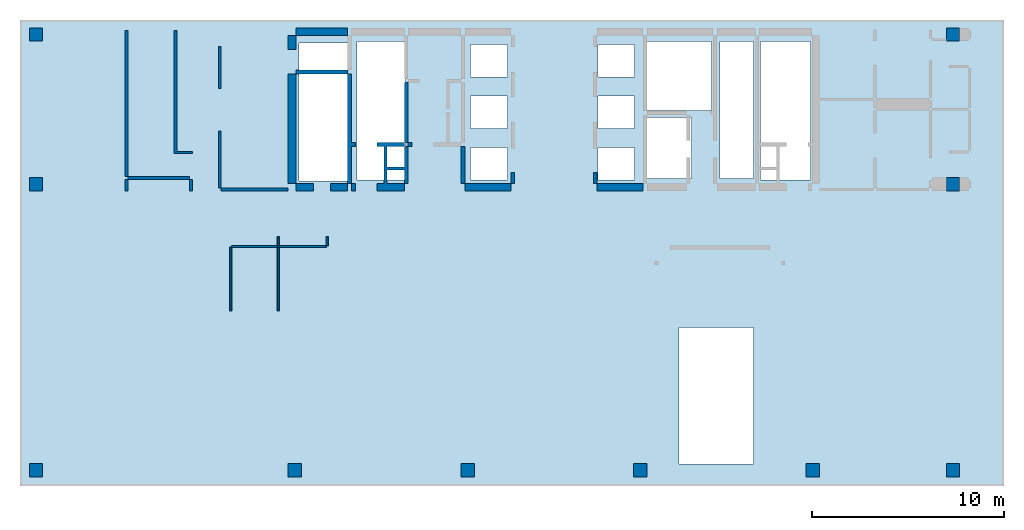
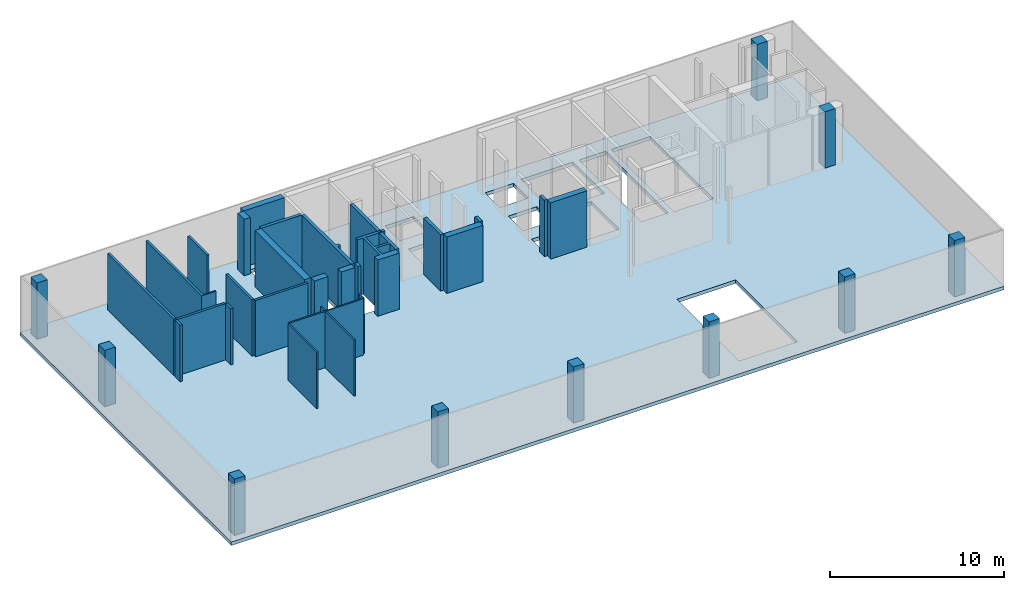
# One storey, part 1 of 4: 30 walls, 10 columns, 1 slab.
"""IFC4 building model written with IfcOpenShell, lengths in millimetres."""

import ifcopenshell
import ifcopenshell.guid

model = None  # the IFC model being written
_history = None  # IfcOwnerHistory: only IFC2X3 demands one
_inside = {}  # id of a spatial element -> (the spatial element, [elements in it])
_under = {}  # id of a project, library or spatial element -> (it, [spatial elements below it])
_declared = {}  # id of a project -> (the project, [libraries it declares])
_typed = {}  # id of a type object -> (the type object, [elements of that type])
_made_of = {}  # id of a material, layer set ... -> (it, [elements and type objects made of it])


def new_model(schema):
    """Start an empty IFC model of exactly this schema.

    Asked for "IFC4X3", IfcOpenShell would pick the latest addendum, in which some entities
    have other attributes; the version numbers below select the first issue.
    IFC2X3 requires an IfcOwnerHistory on every rooted entity: one is made here for all.
    """
    global model, _history
    if schema == "IFC4X3":
        model = ifcopenshell.file(schema_version=(4, 3, 0, 0))
    else:
        model = ifcopenshell.file(schema=schema)
    _inside.clear()
    _under.clear()
    _declared.clear()
    _typed.clear()
    _made_of.clear()
    _history = None
    if model.schema == "IFC2X3":
        org = make("IfcOrganization", Name="unknown")
        user = make(
            "IfcPersonAndOrganization",
            ThePerson=make("IfcPerson", FamilyName="unknown"),
            TheOrganization=org,
        )
        app = make(
            "IfcApplication",
            ApplicationDeveloper=org,
            Version="unknown",
            ApplicationFullName="unknown",
            ApplicationIdentifier="unknown",
        )
        _history = make(
            "IfcOwnerHistory",
            OwningUser=user,
            OwningApplication=app,
            ChangeAction="ADDED",
            CreationDate=0,
        )
    return model


def make(cls, **values):
    """One entity of the class cls with the attributes given. An attribute that is None is left unset."""
    return model.create_entity(
        cls, **{name: value for name, value in values.items() if value is not None}
    )


def rooted(cls, **values):
    """An entity with a GlobalId (a new one), such as an element, a storey or a relation."""
    return make(cls, GlobalId=ifcopenshell.guid.new(), OwnerHistory=_history, **values)


def si_unit(unit_type, name, prefix=None):
    """IfcSIUnit, for example si_unit("LENGTHUNIT", "METRE", prefix="MILLI")."""
    return make("IfcSIUnit", UnitType=unit_type, Prefix=prefix, Name=name)


def assignment(units):
    """IfcUnitAssignment: the units of a project."""
    return None if units is None else make("IfcUnitAssignment", Units=units)


def point(xyz):
    """IfcCartesianPoint."""
    return None if xyz is None else make("IfcCartesianPoint", Coordinates=xyz)


def direction(xyz):
    """IfcDirection."""
    return None if xyz is None else make("IfcDirection", DirectionRatios=xyz)


def frame(location, z_axis=None, x_axis=None):
    """IfcAxis2Placement3D, a coordinate frame: its origin and axes. An axis left out is left unset."""
    return make(
        "IfcAxis2Placement3D",
        Location=point(location),
        Axis=direction(z_axis),
        RefDirection=direction(x_axis),
    )


def origin():
    """The frame at (0, 0, 0) with its axes left unset."""
    return frame((0.0, 0.0, 0.0))


def place(relative_to, where):
    """IfcLocalPlacement: puts the frame where relative to a parent placement (None: the world)."""
    return make(
        "IfcLocalPlacement", PlacementRelTo=relative_to, RelativePlacement=where
    )


def context(
    kind, dimensions, precision=None, world=None, true_north=None, identifier=None
):
    """IfcGeometricRepresentationContext, for example the 3D "Model" context."""
    return make(
        "IfcGeometricRepresentationContext",
        ContextIdentifier=identifier,
        ContextType=kind,
        CoordinateSpaceDimension=dimensions,
        Precision=precision,
        WorldCoordinateSystem=world,
        TrueNorth=true_north,
    )


def project(units=None, contexts=None):
    """IfcProject with its units and contexts."""
    return rooted(
        "IfcProject",
        Name="project",
        RepresentationContexts=contexts,
        UnitsInContext=assignment(units),
    )


def spatial(cls, under=None, at=None, **own):
    """A site, building, storey or space (cls), placed at a placement, below another one or the project."""
    s = rooted(cls, ObjectPlacement=at, **own)
    if under is not None:
        _under.setdefault(under.id(), (under, []))[1].append(s)
    return s


def point_list(points):
    """IfcCartesianPointList2D or 3D."""
    cls = (
        "IfcCartesianPointList2D" if len(points[0]) == 2 else "IfcCartesianPointList3D"
    )
    return make(cls, CoordList=points)


def triangles(points, corners, closed=None, point_numbers=None):
    """IfcTriangulatedFaceSet: each triangle names its three corners, points numbered from 1."""
    return make(
        "IfcTriangulatedFaceSet",
        Coordinates=point_list(points),
        Closed=closed,
        CoordIndex=corners,
        PnIndex=point_numbers,
    )


def shape(context_of_items, identifier, shape_type, items):
    """IfcShapeRepresentation: the items that make up one representation, for example the "Body"."""
    return make(
        "IfcShapeRepresentation",
        ContextOfItems=context_of_items,
        RepresentationIdentifier=identifier,
        RepresentationType=shape_type,
        Items=items,
    )


def made_of(thing, what):
    """Note that an element or type object is made of a material, layer set ...; save() writes the relation."""
    if what is not None:
        _made_of.setdefault(what.id(), (what, []))[1].append(thing)
    return thing


def element(
    cls,
    number,
    at=None,
    inside=None,
    cuts=None,
    type_object=None,
    material=None,
    context=None,
    identifier="Body",
    shape_type=None,
    held_by="IfcProductDefinitionShape",
    body=None,
    shapes=None,
    **own,
):
    """One element of the class cls, such as IfcWall. Its Tag is "e" and its number.

    at: its placement. inside: the storey or other place that contains it. cuts: it is an
    opening in that element (IfcRelVoidsElement). A single representation is given by context,
    identifier, shape_type and body (its items); several are given by shapes. held_by: the class
    of the entity that holds the representations. save() writes the other relations.
    """
    e = rooted(cls, Tag="e%d" % number, ObjectPlacement=at, **own)
    if body is not None:
        shapes = [shape(context, identifier, shape_type, body)]
    if shapes is not None:
        e.Representation = make(held_by, Representations=shapes)
    if inside is not None:
        _inside.setdefault(inside.id(), (inside, []))[1].append(e)
    if cuts is not None:
        rooted(
            "IfcRelVoidsElement", RelatingBuildingElement=cuts, RelatedOpeningElement=e
        )
    if type_object is not None:
        _typed.setdefault(type_object.id(), (type_object, []))[1].append(e)
    return made_of(e, material)


def aggregate(whole, parts):
    """IfcRelAggregates: a whole, such as a stair, and the parts it consists of."""
    return rooted("IfcRelAggregates", RelatingObject=whole, RelatedObjects=parts)


def save(model, path):
    """Write the relations noted so far, then the file.

    IfcRelAggregates (storeys below a building ...), IfcRelContainedInSpatialStructure (elements
    in a storey), IfcRelDefinesByType, IfcRelAssociatesMaterial and IfcRelDeclares: one each for
    every whole, place, type object, material and project.
    """
    for whole, parts in _under.values():
        aggregate(whole, parts)
    for where, things in _inside.values():
        rooted(
            "IfcRelContainedInSpatialStructure",
            RelatedElements=things,
            RelatingStructure=where,
        )
    for kind, things in _typed.values():
        rooted("IfcRelDefinesByType", RelatedObjects=things, RelatingType=kind)
    for what, things in _made_of.values():
        rooted("IfcRelAssociatesMaterial", RelatedObjects=things, RelatingMaterial=what)
    for by, libraries in _declared.values():
        rooted("IfcRelDeclares", RelatingContext=by, RelatedDefinitions=libraries)
    model.write(path)


model = new_model("IFC4")

# Units and contexts
model_context = context("Model", 3, precision=0.001, world=origin())
ifc_project = project(units=[si_unit("LENGTHUNIT", "METRE", prefix="MILLI"), si_unit("AREAUNIT", "SQUARE_METRE"), si_unit("VOLUMEUNIT", "CUBIC_METRE")], contexts=[model_context])

# Site, building, storey
site_placement = place(None, origin())
site = spatial("IfcSite", under=ifc_project, at=site_placement, Name="Site", CompositionType="ELEMENT")
building_placement = place(site_placement, origin())
building = spatial("IfcBuilding", under=site, at=building_placement, Name="INNOCEAN", CompositionType="ELEMENT")
storey_placement = place(building_placement, frame((0.0, 0.0, 55400.0)))
storey = spatial("IfcBuildingStorey", under=building, at=storey_placement, Name="F13", CompositionType="ELEMENT", Elevation=55400.0)

# Columns
column_1_placement = place(storey_placement, origin())
element("IfcColumn", 1, at=column_1_placement, inside=storey, Name="F13_Columns_F13_001", context=model_context, shape_type="Tessellation", body=[
    triangles([(40114.8, 2023.7, 0.0), (40114.8, 2023.7, 3950.0), (40114.8, 2722.3, 0.0), (40114.8, 2722.3, 3950.0), (40813.0, 2023.7, 3950.0), (40813.0, 2023.7, 0.0), (40813.0, 2722.3, 0.0), (40813.0, 2722.3, 3950.0)], [[1, 2, 3], [3, 2, 4], [5, 6, 7], [5, 7, 8], [6, 5, 1], [1, 5, 2], [8, 7, 3], [8, 3, 4], [3, 7, 1], [1, 7, 6], [8, 4, 2], [8, 2, 5]], closed=True),
])
column_2_placement = place(storey_placement, origin())
element("IfcColumn", 2, at=column_2_placement, inside=storey, Name="F13_Columns_F13_002", context=model_context, shape_type="Tessellation", body=[
    triangles([(47413.4, 24721.0, 0.0), (47413.4, 24721.0, 3950.0), (47413.4, 25419.5, 0.0), (47413.4, 25419.5, 3950.0), (48111.6, 24721.0, 3950.0), (48111.6, 24721.0, 0.0), (48111.6, 25419.5, 0.0), (48111.6, 25419.5, 3950.0)], [[1, 2, 3], [3, 2, 4], [5, 6, 7], [5, 7, 8], [6, 5, 1], [1, 5, 2], [8, 7, 3], [8, 3, 4], [1, 3, 6], [3, 7, 6], [4, 2, 5], [8, 4, 5]], closed=True),
])
column_3_placement = place(storey_placement, origin())
element("IfcColumn", 3, at=column_3_placement, inside=storey, Name="F13_Columns_F13_003", context=model_context, shape_type="Tessellation", body=[
    triangles([(47413.4, 16922.4, 0.0), (47413.4, 16922.4, 3950.0), (47413.4, 17620.9, 0.0), (47413.4, 17620.9, 3950.0), (48111.6, 16922.4, 3950.0), (48111.6, 16922.4, 0.0), (48111.6, 17620.9, 0.0), (48111.6, 17620.9, 3950.0)], [[1, 2, 3], [3, 2, 4], [5, 6, 7], [5, 7, 8], [6, 5, 1], [1, 5, 2], [8, 7, 3], [8, 3, 4], [1, 3, 6], [3, 7, 6], [4, 2, 5], [8, 4, 5]], closed=True),
])
column_4_placement = place(storey_placement, origin())
element("IfcColumn", 4, at=column_4_placement, inside=storey, Name="F13_Columns_F13_004", context=model_context, shape_type="Tessellation", body=[
    triangles([(13129.0, 2023.7, 0.0), (13129.0, 2023.7, 3950.0), (13129.0, 2722.3, 0.0), (13129.0, 2722.3, 3950.0), (13827.2, 2023.7, 3950.0), (13827.2, 2023.7, 0.0), (13827.2, 2722.3, 0.0), (13827.2, 2722.3, 3950.0)], [[1, 2, 3], [3, 2, 4], [5, 6, 7], [5, 7, 8], [6, 5, 1], [1, 5, 2], [8, 7, 3], [8, 3, 4], [3, 7, 1], [1, 7, 6], [8, 4, 2], [8, 2, 5]], closed=True),
])
column_5_placement = place(storey_placement, origin())
element("IfcColumn", 5, at=column_5_placement, inside=storey, Name="F13_Columns_F13_005", context=model_context, shape_type="Tessellation", body=[
    triangles([(47413.4, 2023.7, 0.0), (47413.4, 2023.7, 3950.0), (47413.4, 2722.3, 0.0), (47413.4, 2722.3, 3950.0), (48111.6, 2023.7, 3950.0), (48111.6, 2023.7, 0.0), (48111.6, 2722.3, 0.0), (48111.6, 2722.3, 3950.0)], [[1, 2, 3], [3, 2, 4], [5, 6, 7], [5, 7, 8], [6, 5, 1], [1, 5, 2], [8, 7, 3], [8, 3, 4], [3, 7, 1], [1, 7, 6], [8, 4, 2], [8, 2, 5]], closed=True),
])
column_6_placement = place(storey_placement, origin())
element("IfcColumn", 6, at=column_6_placement, inside=storey, Name="F13_Columns_F13_006", context=model_context, shape_type="Tessellation", body=[
    triangles([(-363.9, 2023.7, 0.0), (-363.9, 2023.7, 3950.0), (-363.9, 2722.3, 0.0), (-363.9, 2722.3, 3950.0), (334.3, 2023.7, 3950.0), (334.3, 2023.7, 0.0), (334.3, 2722.3, 0.0), (334.3, 2722.3, 3950.0)], [[1, 2, 3], [3, 2, 4], [5, 6, 7], [5, 7, 8], [6, 5, 1], [1, 5, 2], [8, 7, 3], [8, 3, 4], [3, 7, 1], [1, 7, 6], [8, 4, 2], [8, 2, 5]], closed=True),
])
column_7_placement = place(storey_placement, origin())
element("IfcColumn", 7, at=column_7_placement, inside=storey, Name="F13_Columns_F13_007", context=model_context, shape_type="Tessellation", body=[
    triangles([(-363.9, 24721.0, 0.0), (-363.9, 24721.0, 3950.0), (-363.9, 25419.5, 0.0), (-363.9, 25419.5, 3950.0), (334.3, 24721.0, 3950.0), (334.3, 24721.0, 0.0), (334.3, 25419.5, 0.0), (334.3, 25419.5, 3950.0)], [[1, 2, 3], [3, 2, 4], [5, 6, 7], [5, 7, 8], [6, 5, 1], [1, 5, 2], [8, 7, 3], [8, 3, 4], [3, 7, 1], [1, 7, 6], [8, 4, 2], [8, 2, 5]], closed=True),
])
column_8_placement = place(storey_placement, origin())
element("IfcColumn", 8, at=column_8_placement, inside=storey, Name="F13_Columns_F13_008", context=model_context, shape_type="Tessellation", body=[
    triangles([(31128.0, 2023.7, 0.0), (31128.0, 2023.7, 3950.0), (31128.0, 2722.3, 0.0), (31128.0, 2722.3, 3950.0), (31826.2, 2023.7, 3950.0), (31826.2, 2023.7, 0.0), (31826.2, 2722.3, 0.0), (31826.2, 2722.3, 3950.0)], [[1, 2, 3], [3, 2, 4], [5, 6, 7], [5, 7, 8], [6, 5, 1], [1, 5, 2], [8, 7, 3], [8, 3, 4], [3, 7, 1], [1, 7, 6], [8, 4, 2], [8, 2, 5]], closed=True),
])
column_9_placement = place(storey_placement, origin())
element("IfcColumn", 9, at=column_9_placement, inside=storey, Name="F13_Columns_F13_009", context=model_context, shape_type="Tessellation", body=[
    triangles([(22128.5, 2023.7, 0.0), (22128.5, 2023.7, 3950.0), (22128.5, 2722.3, 0.0), (22128.5, 2722.3, 3950.0), (22826.7, 2023.7, 3950.0), (22826.7, 2023.7, 0.0), (22826.7, 2722.3, 0.0), (22826.7, 2722.3, 3950.0)], [[1, 2, 3], [3, 2, 4], [5, 6, 7], [5, 7, 8], [6, 5, 1], [1, 5, 2], [8, 7, 3], [8, 3, 4], [3, 7, 1], [1, 7, 6], [8, 4, 2], [8, 2, 5]], closed=True),
])
column_10_placement = place(storey_placement, origin())
element("IfcColumn", 10, at=column_10_placement, inside=storey, Name="F13_Columns_F13_010", context=model_context, shape_type="Tessellation", body=[
    triangles([(-363.9, 16922.4, 0.0), (-363.9, 16922.4, 3950.0), (-363.9, 17620.9, 0.0), (-363.9, 17620.9, 3950.0), (334.3, 16922.4, 3950.0), (334.3, 16922.4, 0.0), (334.3, 17620.9, 0.0), (334.3, 17620.9, 3950.0)], [[1, 2, 3], [3, 2, 4], [5, 6, 7], [5, 7, 8], [6, 5, 1], [1, 5, 2], [8, 7, 3], [8, 3, 4], [3, 7, 1], [1, 7, 6], [8, 4, 2], [8, 2, 5]], closed=True),
])

# Slab
slab_placement = place(storey_placement, origin())
element("IfcSlab", 11, at=slab_placement, inside=storey, Name="F13_Slab_F13_001", context=model_context, shape_type="Tessellation", body=[
    triangles([(-846.215139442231, 25825.974025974, 0.0), (50420.3187250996, 25825.974025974, -250.0), (-846.215139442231, 25825.974025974, -250.0), (50420.3187250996, 25825.974025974, 0.0), (-846.215139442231, 1552.38095238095, 0.0), (-846.215139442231, 1552.38095238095, -250.0), (50420.3187250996, 1552.38095238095, 0.0), (50420.3187250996, 1552.38095238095, -250.0), (37374.5019920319, 9808.22510822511, 0.0), (33496.015936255, 9808.22510822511, 0.0), (33496.015936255, 9808.22510822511, -250.0), (37374.5019920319, 9808.22510822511, -250.0), (37374.5019920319, 2681.38528138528, 0.0), (37374.5019920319, 2681.38528138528, -250.0), (33496.015936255, 2681.38528138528, 0.0), (33496.015936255, 2681.38528138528, -250.0), (34130.6772908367, 20745.4545454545, -250.0), (31733.0677290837, 20745.4545454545, 0.0), (31733.0677290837, 20745.4545454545, -250.0), (34130.6772908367, 20745.4545454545, 0.0), (31733.0677290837, 17570.1298701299, 0.0), (31733.0677290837, 17570.1298701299, -250.0), (34130.6772908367, 17570.1298701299, 0.0), (34130.6772908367, 17570.1298701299, -250.0), (31168.9243027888, 19193.0735930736, 0.0), (29264.9402390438, 19193.0735930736, 0.0), (29264.9402390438, 19193.0735930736, -250.0), (31168.9243027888, 19193.0735930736, -250.0), (29264.9402390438, 17499.5670995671, 0.0), (29264.9402390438, 17499.5670995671, -250.0), (31168.9243027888, 17499.5670995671, 0.0), (31168.9243027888, 17499.5670995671, -250.0), (40336.2549800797, 24696.9696969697, -250.0), (37727.0916334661, 24696.9696969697, 0.0), (37727.0916334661, 24696.9696969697, -250.0), (40336.2549800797, 24696.9696969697, 0.0), (37727.0916334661, 17499.5670995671, 0.0), (37727.0916334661, 17499.5670995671, -250.0), (40336.2549800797, 17499.5670995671, 0.0), (40336.2549800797, 17499.5670995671, -250.0), (37374.5019920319, 24696.9696969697, 0.0), (35611.5537848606, 24696.9696969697, 0.0), (35611.5537848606, 24696.9696969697, -250.0), (37374.5019920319, 24696.9696969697, -250.0), (35611.5537848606, 17570.1298701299, 0.0), (35611.5537848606, 17570.1298701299, -250.0), (37374.5019920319, 17570.1298701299, 0.0), (37374.5019920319, 17570.1298701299, -250.0), (31168.9243027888, 21874.4588744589, 0.0), (29264.9402390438, 21874.4588744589, 0.0), (29264.9402390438, 21874.4588744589, -250.0), (31168.9243027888, 21874.4588744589, -250.0), (29264.9402390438, 20180.9523809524, 0.0), (29264.9402390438, 20180.9523809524, -250.0), (31168.9243027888, 20180.9523809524, 0.0), (31168.9243027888, 20180.9523809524, -250.0), (35188.4462151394, 24696.9696969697, 0.0), (31733.0677290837, 24696.9696969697, 0.0), (31733.0677290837, 24696.9696969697, -250.0), (35188.4462151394, 24696.9696969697, -250.0), (31733.0677290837, 21098.2683982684, 0.0), (31733.0677290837, 21098.2683982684, -250.0), (35188.4462151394, 21098.2683982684, 0.0), (35188.4462151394, 21098.2683982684, -250.0), (31168.9243027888, 24555.8441558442, 0.0), (29264.9402390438, 24555.8441558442, 0.0), (29264.9402390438, 24555.8441558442, -250.0), (31168.9243027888, 24555.8441558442, -250.0), (29264.9402390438, 22862.3376623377, 0.0), (29264.9402390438, 22862.3376623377, -250.0), (31168.9243027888, 22862.3376623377, 0.0), (31168.9243027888, 22862.3376623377, -250.0), (24540.2390438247, 19193.0735930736, -250.0), (22636.2549800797, 19193.0735930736, 0.0), (22636.2549800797, 19193.0735930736, -250.0), (24540.2390438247, 19193.0735930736, 0.0), (22636.2549800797, 17499.5670995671, 0.0), (22636.2549800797, 17499.5670995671, -250.0), (24540.2390438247, 17499.5670995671, 0.0), (24540.2390438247, 17499.5670995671, -250.0), (24540.2390438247, 21874.4588744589, -250.0), (22636.2549800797, 21874.4588744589, 0.0), (22636.2549800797, 21874.4588744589, -250.0), (24540.2390438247, 21874.4588744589, 0.0), (22636.2549800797, 20180.9523809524, 0.0), (22636.2549800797, 20180.9523809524, -250.0), (24540.2390438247, 20180.9523809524, 0.0), (24540.2390438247, 20180.9523809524, -250.0), (24540.2390438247, 24555.8441558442, -250.0), (22636.2549800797, 24555.8441558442, 0.0), (22636.2549800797, 24555.8441558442, -250.0), (24540.2390438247, 24555.8441558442, 0.0), (22636.2549800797, 22862.3376623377, 0.0), (22636.2549800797, 22862.3376623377, -250.0), (24540.2390438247, 22862.3376623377, 0.0), (24540.2390438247, 22862.3376623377, -250.0), (19251.3944223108, 24696.9696969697, 0.0), (16712.7490039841, 24696.9696969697, 0.0), (16712.7490039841, 24696.9696969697, -250.0), (19251.3944223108, 24696.9696969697, -250.0), (16712.7490039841, 17499.5670995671, 0.0), (16712.7490039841, 17499.5670995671, -250.0), (19251.3944223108, 17499.5670995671, 0.0), (19251.3944223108, 17499.5670995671, -250.0), (16219.1235059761, 24626.4069264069, 0.0), (13680.4780876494, 24626.4069264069, 0.0), (13680.4780876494, 24626.4069264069, -250.0), (16219.1235059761, 24626.4069264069, -250.0), (13680.4780876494, 17429.0043290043, 0.0), (13680.4780876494, 17429.0043290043, -250.0), (16219.1235059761, 17429.0043290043, 0.0), (16219.1235059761, 17429.0043290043, -250.0)], [[1, 2, 3], [1, 4, 2], [5, 1, 6], [6, 1, 3], [4, 7, 2], [2, 7, 8], [7, 6, 8], [7, 5, 6], [9, 10, 11], [9, 11, 12], [13, 9, 12], [13, 12, 14], [15, 13, 14], [15, 14, 16], [10, 15, 16], [10, 16, 11], [17, 18, 19], [20, 18, 17], [18, 21, 22], [18, 22, 19], [23, 20, 17], [23, 17, 24], [22, 23, 24], [21, 23, 22], [25, 26, 27], [25, 27, 28], [26, 29, 30], [26, 30, 27], [31, 25, 28], [31, 28, 32], [29, 31, 32], [29, 32, 30], [33, 34, 35], [36, 34, 33], [34, 37, 38], [34, 38, 35], [39, 36, 33], [39, 33, 40], [38, 39, 40], [37, 39, 38], [41, 42, 43], [41, 43, 44], [42, 45, 46], [42, 46, 43], [47, 41, 44], [47, 44, 48], [45, 47, 48], [45, 48, 46], [49, 50, 51], [49, 51, 52], [50, 53, 54], [50, 54, 51], [55, 49, 52], [55, 52, 56], [53, 55, 56], [53, 56, 54], [57, 58, 59], [57, 59, 60], [58, 61, 62], [58, 62, 59], [63, 57, 60], [63, 60, 64], [61, 63, 64], [61, 64, 62], [65, 66, 67], [65, 67, 68], [66, 69, 70], [66, 70, 67], [71, 65, 68], [71, 68, 72], [69, 71, 72], [69, 72, 70], [73, 74, 75], [76, 74, 73], [74, 77, 78], [74, 78, 75], [79, 76, 73], [79, 73, 80], [78, 79, 80], [77, 79, 78], [81, 82, 83], [84, 82, 81], [82, 85, 86], [82, 86, 83], [87, 84, 81], [87, 81, 88], [86, 87, 88], [85, 87, 86], [89, 90, 91], [92, 90, 89], [90, 93, 94], [90, 94, 91], [95, 92, 89], [95, 89, 96], [94, 95, 96], [93, 95, 94], [97, 98, 99], [97, 99, 100], [98, 101, 102], [98, 102, 99], [103, 97, 100], [103, 100, 104], [101, 103, 104], [101, 104, 102], [105, 106, 107], [105, 107, 108], [106, 109, 110], [106, 110, 107], [111, 105, 108], [111, 108, 112], [109, 111, 112], [109, 112, 110], [13, 15, 7], [7, 9, 13], [4, 39, 7], [7, 39, 9], [39, 37, 9], [37, 47, 9], [9, 45, 10], [47, 45, 9], [45, 23, 10], [4, 36, 39], [23, 21, 10], [21, 31, 10], [63, 20, 45], [45, 20, 23], [21, 25, 31], [31, 29, 10], [25, 18, 55], [18, 61, 55], [20, 61, 18], [42, 57, 63], [55, 26, 25], [61, 49, 55], [55, 53, 26], [61, 71, 49], [29, 79, 10], [58, 65, 71], [71, 69, 49], [49, 69, 50], [26, 76, 29], [29, 76, 79], [53, 76, 26], [10, 77, 15], [79, 77, 10], [58, 66, 65], [53, 87, 76], [50, 87, 53], [50, 84, 87], [87, 85, 76], [76, 85, 74], [77, 103, 15], [74, 103, 77], [85, 103, 74], [69, 95, 50], [50, 95, 84], [85, 82, 103], [95, 82, 84], [66, 92, 69], [69, 92, 95], [95, 93, 82], [101, 111, 103], [103, 111, 15], [111, 5, 15], [111, 109, 5], [90, 97, 93], [82, 97, 103], [93, 97, 82], [98, 105, 101], [101, 105, 111], [98, 106, 105], [106, 1, 109], [109, 1, 5], [4, 1, 36], [36, 1, 34], [34, 1, 41], [41, 1, 42], [42, 1, 57], [57, 1, 58], [58, 1, 66], [66, 1, 92], [92, 1, 90], [90, 1, 97], [97, 1, 98], [98, 1, 106], [5, 7, 15], [21, 18, 25], [45, 42, 63], [41, 47, 34], [34, 47, 37], [61, 58, 71], [63, 61, 20], [16, 14, 8], [12, 8, 14], [40, 2, 8], [40, 8, 12], [38, 40, 12], [48, 38, 12], [46, 12, 11], [46, 48, 12], [24, 46, 11], [33, 2, 40], [22, 24, 11], [32, 22, 11], [17, 64, 46], [17, 46, 24], [28, 22, 32], [30, 32, 11], [19, 28, 56], [62, 19, 56], [62, 17, 19], [60, 43, 64], [27, 56, 28], [52, 62, 56], [54, 56, 27], [72, 62, 52], [80, 30, 11], [68, 59, 72], [70, 72, 52], [70, 52, 51], [73, 27, 30], [73, 30, 80], [73, 54, 27], [78, 11, 16], [78, 80, 11], [67, 59, 68], [88, 54, 73], [88, 51, 54], [81, 51, 88], [86, 88, 73], [86, 73, 75], [104, 78, 16], [104, 75, 78], [104, 86, 75], [96, 70, 51], [96, 51, 81], [83, 86, 104], [83, 96, 81], [89, 67, 70], [89, 70, 96], [94, 96, 83], [112, 102, 104], [112, 104, 16], [6, 112, 16], [110, 112, 6], [100, 91, 94], [100, 83, 104], [100, 94, 83], [108, 99, 102], [108, 102, 112], [107, 99, 108], [3, 107, 110], [3, 110, 6], [3, 2, 33], [3, 33, 35], [3, 35, 44], [3, 44, 43], [3, 43, 60], [3, 60, 59], [3, 59, 67], [3, 67, 89], [3, 89, 91], [3, 91, 100], [3, 100, 99], [3, 99, 107], [8, 6, 16], [19, 22, 28], [43, 46, 64], [48, 44, 35], [48, 35, 38], [59, 62, 72], [62, 64, 17]], closed=True),
])

# Walls
wall_1_placement = place(storey_placement, origin())
element("IfcWall", 12, at=wall_1_placement, inside=storey, Name="F13_Walls_F13_001", context=model_context, shape_type="Tessellation", body=[
    triangles([(12659.4, 10673.3, 0.0), (12659.4, 13975.7, 0.0), (12659.4, 13975.7, 3950.0), (12659.4, 10673.3, 3950.0), (12557.8, 10673.3, 0.0), (12557.8, 10673.3, 3950.0), (12557.8, 13975.7, 0.0), (12557.8, 13975.7, 3950.0)], [[1, 2, 3], [1, 3, 4], [5, 1, 4], [5, 4, 6], [7, 5, 6], [7, 6, 8], [2, 7, 8], [2, 8, 3], [7, 2, 1], [7, 1, 5], [3, 8, 4], [4, 8, 6]], closed=True),
])
wall_2_placement = place(storey_placement, origin())
element("IfcWall", 13, at=wall_2_placement, inside=storey, Name="F13_Walls_F13_002", context=model_context, shape_type="Tessellation", body=[
    triangles([(10184.2, 10673.3, 0.0), (10184.2, 13975.7, 0.0), (10184.2, 13975.7, 3950.0), (10184.2, 10673.3, 3950.0), (10082.6, 10673.3, 0.0), (10082.6, 10673.3, 3950.0), (10082.6, 13975.7, 0.0), (10082.6, 13975.7, 3950.0)], [[1, 2, 3], [1, 3, 4], [5, 1, 4], [5, 4, 6], [7, 5, 6], [7, 6, 8], [2, 7, 8], [2, 8, 3], [7, 2, 1], [7, 1, 5], [3, 8, 4], [4, 8, 6]], closed=True),
])
wall_3_placement = place(storey_placement, origin())
element("IfcWall", 14, at=wall_3_placement, inside=storey, Name="F13_Walls_F13_003", context=model_context, shape_type="Tessellation", body=[
    triangles([(15109.2, 13975.7, 0.0), (15109.2, 14077.3, 0.0), (15109.2, 14077.3, 3950.0), (15109.2, 13975.7, 3950.0), (12659.4, 13975.7, 0.0), (12659.4, 13975.7, 3950.0), (12659.4, 14077.3, 0.0), (12659.4, 14077.3, 3950.0)], [[1, 2, 3], [1, 3, 4], [5, 1, 4], [5, 4, 6], [7, 5, 6], [7, 6, 8], [2, 7, 8], [2, 8, 3], [7, 2, 1], [7, 1, 5], [3, 8, 4], [4, 8, 6]], closed=True),
])
wall_4_placement = place(storey_placement, origin())
element("IfcWall", 15, at=wall_4_placement, inside=storey, Name="F13_Walls_F13_004", context=model_context, shape_type="Tessellation", body=[
    triangles([(12557.8, 13975.7, 0.0), (12557.8, 14077.3, 0.0), (12557.8, 14077.3, 3950.0), (12557.8, 13975.7, 3950.0), (10184.2, 13975.7, 0.0), (10184.2, 13975.7, 3950.0), (10184.2, 14077.3, 0.0), (10184.2, 14077.3, 3950.0)], [[1, 2, 3], [1, 3, 4], [5, 1, 4], [5, 4, 6], [7, 5, 6], [7, 6, 8], [2, 7, 8], [2, 8, 3], [7, 2, 1], [7, 1, 5], [3, 8, 4], [4, 8, 6]], closed=True),
])
wall_5_placement = place(storey_placement, origin())
element("IfcWall", 16, at=wall_5_placement, inside=storey, Name="F13_Walls_F13_005", context=model_context, shape_type="Tessellation", body=[
    triangles([(12659.4, 14077.3, 0.0), (12659.4, 14521.8, 0.0), (12659.4, 14521.8, 3950.0), (12659.4, 14077.3, 3950.0), (12557.8, 14077.3, 0.0), (12557.8, 14077.3, 3950.0), (12557.8, 14521.8, 0.0), (12557.8, 14521.8, 3950.0)], [[1, 2, 3], [1, 3, 4], [5, 1, 4], [5, 4, 6], [7, 5, 6], [7, 6, 8], [2, 7, 8], [2, 8, 3], [7, 2, 1], [7, 1, 5], [3, 8, 4], [4, 8, 6]], closed=True),
])
wall_6_placement = place(storey_placement, origin())
element("IfcWall", 17, at=wall_6_placement, inside=storey, Name="F13_Walls_F13_006", context=model_context, shape_type="Tessellation", body=[
    triangles([(15210.7, 14077.3, 0.0), (15210.7, 14521.8, 0.0), (15210.7, 14521.8, 3950.0), (15210.7, 14077.3, 3950.0), (15109.2, 14077.3, 0.0), (15109.2, 14077.3, 3950.0), (15109.2, 14521.8, 0.0), (15109.2, 14521.8, 3950.0)], [[1, 2, 3], [1, 3, 4], [5, 1, 4], [5, 4, 6], [7, 5, 6], [7, 6, 8], [2, 7, 8], [2, 8, 3], [7, 2, 1], [7, 1, 5], [3, 8, 4], [4, 8, 6]], closed=True),
])
wall_7_placement = place(storey_placement, origin())
element("IfcWall", 18, at=wall_7_placement, inside=storey, Name="F13_Walls_F13_007", context=model_context, shape_type="Tessellation", body=[
    triangles([(13129.0, 16922.4, 0.0), (13129.0, 17074.8, 0.0), (13129.0, 17074.8, 3950.0), (13129.0, 16922.4, 3950.0), (9638.4, 16922.4, 3950.0), (9638.4, 16922.4, 0.0), (9638.4, 17074.8, 0.0), (9638.4, 17074.8, 3950.0)], [[1, 2, 3], [1, 3, 4], [1, 4, 5], [6, 1, 5], [7, 6, 5], [7, 5, 8], [7, 8, 3], [2, 7, 3], [7, 2, 1], [7, 1, 6], [3, 8, 4], [4, 8, 5]], closed=True),
])
wall_8_placement = place(storey_placement, origin())
element("IfcWall", 19, at=wall_8_placement, inside=storey, Name="F13_Walls_F13_008", context=model_context, shape_type="Tessellation", body=[
    triangles([(14436.4, 17316.1, 0.0), (14436.4, 17316.1, 3950.0), (14436.4, 16922.4, 3950.0), (14436.4, 16922.4, 0.0), (13535.2, 16922.4, 0.0), (13535.2, 16922.4, 3950.0), (13535.2, 17316.1, 3950.0), (13535.2, 17316.1, 0.0)], [[1, 2, 3], [4, 1, 3], [5, 4, 3], [5, 3, 6], [5, 6, 7], [8, 5, 7], [1, 8, 7], [1, 7, 2], [8, 1, 4], [8, 4, 5], [2, 7, 3], [3, 7, 6]], closed=True),
])
wall_9_placement = place(storey_placement, origin())
element("IfcWall", 20, at=wall_9_placement, inside=storey, Name="F13_Walls_F13_009", context=model_context, shape_type="Tessellation", body=[
    triangles([(16226.2, 17316.1, 0.0), (16226.2, 17316.1, 3950.0), (16226.2, 16922.4, 3950.0), (16226.2, 16922.4, 0.0), (15337.6, 16922.4, 0.0), (15337.6, 16922.4, 3950.0), (15337.6, 17316.1, 3950.0), (15337.6, 17316.1, 0.0)], [[1, 2, 3], [4, 1, 3], [5, 4, 3], [5, 3, 6], [5, 6, 7], [8, 5, 7], [1, 8, 7], [1, 7, 2], [8, 1, 4], [8, 4, 5], [2, 7, 3], [3, 7, 6]], closed=True),
])
wall_10_placement = place(storey_placement, origin())
element("IfcWall", 21, at=wall_10_placement, inside=storey, Name="F13_Walls_F13_010", context=model_context, shape_type="Tessellation", body=[
    triangles([(18130.2, 19246.7, 0.0), (18130.2, 19245.0, 0.0), (18130.2, 19245.0, 3950.0), (18130.2, 19246.7, 3950.0), (18130.0, 19245.0, 0.0), (18130.0, 19245.0, 3950.0), (18130.0, 17316.1, 0.0), (18130.0, 17316.1, 3950.0), (17749.4, 17316.1, 0.0), (17749.4, 17316.1, 3950.0), (17749.4, 16922.4, 0.0), (17749.4, 16922.4, 3950.0), (19183.7, 16922.4, 0.0), (19183.7, 16922.4, 3950.0), (19183.7, 17316.1, 0.0), (19183.7, 17316.1, 3950.0), (19374.1, 17316.1, 0.0), (19374.1, 17316.1, 3950.0), (19374.1, 19246.7, 0.0), (19374.1, 19246.7, 3950.0), (19183.7, 19246.7, 0.0), (19183.7, 19246.7, 3950.0), (19183.7, 19449.9, 0.0), (19183.7, 19449.9, 3950.0), (17749.4, 19449.9, 0.0), (17749.4, 19449.9, 3950.0), (17749.4, 19246.7, 0.0), (17749.4, 19246.7, 3950.0), (18282.5, 17316.1, 0.0), (18282.5, 17316.1, 3950.0), (18282.5, 18014.7, 0.0), (18282.5, 18014.7, 3950.0), (19183.7, 18014.7, 0.0), (19183.7, 18014.7, 3950.0), (19183.7, 18167.1, 0.0), (19183.7, 18167.1, 3950.0), (18282.5, 18167.1, 0.0), (18282.5, 18167.1, 3950.0), (18282.5, 19246.7, 0.0), (18282.5, 19246.7, 3950.0)], [[1, 2, 3], [1, 3, 4], [2, 5, 6], [2, 6, 3], [5, 7, 8], [5, 8, 6], [7, 9, 10], [7, 10, 8], [11, 12, 10], [9, 11, 10], [11, 13, 14], [11, 14, 12], [15, 16, 14], [13, 15, 14], [15, 17, 18], [15, 18, 16], [17, 19, 20], [17, 20, 18], [19, 21, 22], [19, 22, 20], [21, 23, 24], [21, 24, 22], [23, 25, 26], [23, 26, 24], [25, 27, 28], [25, 28, 26], [1, 4, 28], [27, 1, 28], [15, 29, 30], [15, 30, 16], [29, 31, 32], [29, 32, 30], [31, 33, 34], [31, 34, 32], [33, 15, 16], [33, 16, 34], [21, 35, 36], [21, 36, 22], [35, 37, 38], [35, 38, 36], [37, 39, 40], [37, 40, 38], [39, 21, 22], [39, 22, 40], [33, 17, 15], [35, 17, 33], [29, 15, 13], [11, 29, 13], [7, 29, 11], [9, 7, 11], [31, 35, 33], [31, 29, 7], [19, 17, 35], [37, 35, 31], [21, 19, 35], [39, 23, 21], [2, 39, 37], [5, 2, 37], [1, 39, 2], [25, 1, 27], [25, 23, 39], [25, 39, 1], [7, 5, 37], [7, 37, 31], [18, 34, 16], [18, 36, 34], [16, 30, 14], [30, 12, 14], [30, 8, 12], [8, 10, 12], [36, 32, 34], [30, 32, 8], [18, 20, 36], [36, 38, 32], [20, 22, 36], [24, 40, 22], [40, 3, 38], [3, 6, 38], [40, 4, 3], [4, 26, 28], [24, 26, 40], [40, 26, 4], [6, 8, 38], [38, 8, 32]], closed=True),
])
wall_11_placement = place(storey_placement, origin())
element("IfcWall", 22, at=wall_11_placement, inside=storey, Name="F13_Walls_F13_011", context=model_context, shape_type="Tessellation", body=[
    triangles([(16632.4, 17316.1, 0.0), (16632.4, 17316.1, 3950.0), (16632.4, 16922.4, 3950.0), (16632.4, 16922.4, 0.0), (16429.3, 16922.4, 3950.0), (16429.3, 16922.4, 0.0), (16429.3, 17316.1, 3950.0), (16429.3, 17316.1, 0.0)], [[1, 2, 3], [4, 1, 3], [4, 3, 5], [6, 4, 5], [6, 5, 7], [8, 6, 7], [8, 7, 2], [1, 8, 2], [8, 1, 4], [8, 4, 6], [2, 7, 3], [3, 7, 5]], closed=True),
])
wall_12_placement = place(storey_placement, origin())
element("IfcWall", 23, at=wall_12_placement, inside=storey, Name="F13_Walls_F13_012", context=model_context, shape_type="Tessellation", body=[
    triangles([(4789.6, 16922.4, 0.0), (4789.6, 17519.3, 0.0), (4789.6, 17519.3, 3950.0), (4789.6, 16922.4, 3950.0), (4637.3, 16922.4, 0.0), (4637.3, 16922.4, 3950.0), (4637.3, 17519.3, 0.0), (4637.3, 17519.3, 3950.0)], [[1, 2, 3], [1, 3, 4], [5, 1, 4], [5, 4, 6], [7, 5, 6], [7, 6, 8], [2, 7, 8], [2, 8, 3], [7, 2, 1], [7, 1, 5], [3, 8, 4], [4, 8, 6]], closed=True),
])
wall_13_placement = place(storey_placement, origin())
element("IfcWall", 24, at=wall_13_placement, inside=storey, Name="F13_Walls_F13_013", context=model_context, shape_type="Tessellation", body=[
    triangles([(7988.3, 17519.3, 0.0), (7988.3, 16922.4, 0.0), (7988.3, 16922.4, 3950.0), (7988.3, 17519.3, 3950.0), (8140.6, 17519.3, 0.0), (8140.6, 17519.3, 3950.0), (8140.6, 16922.4, 0.0), (8140.6, 16922.4, 3950.0)], [[1, 2, 3], [1, 3, 4], [5, 1, 4], [5, 4, 6], [7, 5, 6], [7, 6, 8], [2, 7, 8], [2, 8, 3], [1, 5, 7], [1, 7, 2], [6, 4, 8], [8, 4, 3]], closed=True),
])
wall_14_placement = place(storey_placement, origin())
element("IfcWall", 25, at=wall_14_placement, inside=storey, Name="F13_Walls_F13_014", context=model_context, shape_type="Tessellation", body=[
    triangles([(7988.3, 17519.3, 0.0), (7988.3, 17671.7, 0.0), (7988.3, 17671.7, 3950.0), (7988.3, 17519.3, 3950.0), (4789.6, 17519.3, 0.0), (4789.6, 17519.3, 3950.0), (4789.6, 17671.7, 0.0), (4789.6, 17671.7, 3950.0)], [[1, 2, 3], [1, 3, 4], [5, 1, 4], [5, 4, 6], [7, 5, 6], [7, 6, 8], [2, 7, 8], [2, 8, 3], [7, 2, 1], [7, 1, 5], [3, 8, 4], [4, 8, 6]], closed=True),
])
wall_15_placement = place(storey_placement, origin())
element("IfcWall", 26, at=wall_15_placement, inside=storey, Name="F13_Walls_F13_015", context=model_context, shape_type="Tessellation", body=[
    triangles([(16429.3, 23019.0, 0.0), (16226.2, 23019.0, 0.0), (16226.2, 23019.0, 3950.0), (16429.3, 23019.0, 3950.0), (16429.3, 19449.9, 0.0), (16429.3, 19449.9, 3950.0), (16632.4, 19449.9, 3950.0), (16632.4, 19449.9, 0.0), (16632.4, 19246.7, 0.0), (16632.4, 19246.7, 3950.0), (16429.3, 19246.7, 3950.0), (16429.3, 19246.7, 0.0), (16429.3, 17316.1, 0.0), (16429.3, 17316.1, 3950.0), (16226.2, 17316.1, 0.0), (16226.2, 17316.1, 3950.0), (16226.2, 19246.7, 0.0), (16226.2, 19246.7, 3950.0), (16226.2, 19449.9, 0.0), (16226.2, 19449.9, 3950.0)], [[1, 2, 3], [1, 3, 4], [5, 1, 4], [5, 4, 6], [5, 6, 7], [8, 5, 7], [9, 8, 7], [9, 7, 10], [9, 10, 11], [12, 9, 11], [13, 12, 11], [13, 11, 14], [15, 13, 14], [15, 14, 16], [17, 15, 16], [17, 16, 18], [19, 17, 18], [19, 18, 20], [2, 19, 20], [2, 20, 3], [17, 12, 13], [17, 13, 15], [5, 8, 9], [5, 9, 12], [19, 5, 12], [19, 12, 17], [1, 5, 19], [2, 1, 19], [11, 18, 14], [14, 18, 16], [7, 6, 10], [10, 6, 11], [6, 20, 11], [11, 20, 18], [6, 4, 20], [4, 3, 20]], closed=True),
])
wall_16_placement = place(storey_placement, origin())
element("IfcWall", 27, at=wall_16_placement, inside=storey, Name="F13_Walls_F13_016", context=model_context, shape_type="Tessellation", body=[
    triangles([(9638.4, 17074.8, 0.0), (9638.4, 20046.9, 0.0), (9638.4, 20046.9, 3950.0), (9638.4, 17074.8, 3950.0), (9486.1, 17074.8, 0.0), (9486.1, 17074.8, 3950.0), (9486.1, 20046.9, 0.0), (9486.1, 20046.9, 3950.0)], [[1, 2, 3], [1, 3, 4], [5, 1, 4], [5, 4, 6], [7, 5, 6], [7, 6, 8], [2, 7, 8], [2, 8, 3], [7, 2, 1], [7, 1, 5], [3, 8, 4], [4, 8, 6]], closed=True),
])
wall_17_placement = place(storey_placement, origin())
element("IfcWall", 28, at=wall_17_placement, inside=storey, Name="F13_Walls_F13_017", context=model_context, shape_type="Tessellation", body=[
    triangles([(7340.9, 25267.1, 0.0), (7188.6, 25267.1, 0.0), (7188.6, 25267.1, 3950.0), (7340.9, 25267.1, 3950.0), (7340.9, 18967.3, 0.0), (7340.9, 18967.3, 3950.0), (8140.6, 18967.3, 0.0), (8140.6, 18967.3, 3950.0), (8140.6, 18865.7, 0.0), (8140.6, 18865.7, 3950.0), (8140.0, 18865.7, 0.0), (8140.0, 18865.7, 3950.0), (8140.0, 18865.0, 3950.0), (8140.0, 18865.0, 0.0), (7340.0, 18865.0, 0.0), (7340.0, 18865.0, 3950.0), (7340.0, 18865.7, 3950.0), (7340.0, 18865.7, 0.0), (7188.6, 18865.7, 0.0), (7188.6, 18865.7, 3950.0)], [[1, 2, 3], [1, 3, 4], [5, 1, 4], [5, 4, 6], [7, 5, 6], [7, 6, 8], [9, 7, 8], [9, 8, 10], [11, 9, 10], [11, 10, 12], [11, 12, 13], [14, 11, 13], [15, 14, 13], [15, 13, 16], [15, 16, 17], [18, 15, 17], [19, 18, 17], [19, 17, 20], [3, 19, 20], [2, 19, 3], [7, 9, 11], [15, 11, 14], [18, 11, 15], [5, 7, 11], [5, 11, 18], [19, 5, 18], [2, 1, 5], [2, 5, 19], [10, 8, 12], [12, 16, 13], [12, 17, 16], [8, 6, 12], [12, 6, 17], [6, 20, 17], [4, 3, 6], [6, 3, 20]], closed=True),
])
wall_18_placement = place(storey_placement, origin())
element("IfcWall", 29, at=wall_18_placement, inside=storey, Name="F13_Walls_F13_018", context=model_context, shape_type="Tessellation", body=[
    triangles([(13535.2, 17316.1, 0.0), (13535.2, 23019.0, 0.0), (13535.2, 23019.0, 3950.0), (13535.2, 17316.1, 3950.0), (13129.0, 17316.1, 3950.0), (13129.0, 17316.1, 0.0), (13129.0, 23019.0, 0.0), (13129.0, 23019.0, 3950.0)], [[1, 2, 3], [1, 3, 4], [1, 4, 5], [6, 1, 5], [7, 6, 5], [7, 5, 8], [7, 8, 3], [2, 7, 3], [7, 2, 1], [7, 1, 6], [3, 8, 4], [4, 8, 5]], closed=True),
])
wall_19_placement = place(storey_placement, origin())
element("IfcWall", 30, at=wall_19_placement, inside=storey, Name="F13_Walls_F13_019", context=model_context, shape_type="Tessellation", body=[
    triangles([(4789.6, 17671.7, 0.0), (4789.6, 25267.1, 0.0), (4789.6, 25267.1, 3950.0), (4789.6, 17671.7, 3950.0), (4637.3, 17671.7, 0.0), (4637.3, 17671.7, 3950.0), (4637.3, 25267.1, 0.0), (4637.3, 25267.1, 3950.0)], [[1, 2, 3], [1, 3, 4], [5, 1, 4], [5, 4, 6], [7, 5, 6], [7, 6, 8], [2, 7, 8], [2, 8, 3], [7, 2, 1], [7, 1, 5], [3, 8, 4], [4, 8, 6]], closed=True),
])
wall_20_placement = place(storey_placement, origin())
element("IfcWall", 31, at=wall_20_placement, inside=storey, Name="F13_Walls_F13_020", context=model_context, shape_type="Tessellation", body=[
    triangles([(16226.2, 23019.0, 0.0), (16226.2, 23222.2, 0.0), (16226.2, 23222.2, 3950.0), (16226.2, 23019.0, 3950.0), (13535.2, 23019.0, 0.0), (13535.2, 23019.0, 3950.0), (13535.2, 23222.2, 0.0), (13535.2, 23222.2, 3950.0)], [[1, 2, 3], [1, 3, 4], [5, 1, 4], [5, 4, 6], [7, 5, 6], [7, 6, 8], [2, 7, 8], [2, 8, 3], [7, 2, 1], [7, 1, 5], [3, 8, 4], [4, 8, 6]], closed=True),
])
wall_21_placement = place(storey_placement, origin())
element("IfcWall", 32, at=wall_21_placement, inside=storey, Name="F13_Walls_F13_021", context=model_context, shape_type="Tessellation", body=[
    triangles([(9638.4, 22244.2, 0.0), (9638.4, 24454.2, 0.0), (9638.4, 24454.2, 3950.0), (9638.4, 22244.2, 3950.0), (9486.1, 22244.2, 0.0), (9486.1, 22244.2, 3950.0), (9486.1, 24454.2, 0.0), (9486.1, 24454.2, 3950.0)], [[1, 2, 3], [1, 3, 4], [5, 1, 4], [5, 4, 6], [7, 5, 6], [7, 6, 8], [2, 7, 8], [2, 8, 3], [7, 2, 1], [7, 1, 5], [3, 8, 4], [4, 8, 6]], closed=True),
])
wall_22_placement = place(storey_placement, origin())
element("IfcWall", 33, at=wall_22_placement, inside=storey, Name="F13_Walls_F13_023", context=model_context, shape_type="Tessellation", body=[
    triangles([(13535.2, 24276.4, 0.0), (13535.2, 25025.8, 0.0), (13535.2, 25025.8, 3950.0), (13535.2, 24276.4, 3950.0), (13129.0, 24276.4, 3950.0), (13129.0, 24276.4, 0.0), (13129.0, 25025.8, 0.0), (13129.0, 25025.8, 3950.0)], [[1, 2, 3], [1, 3, 4], [1, 4, 5], [6, 1, 5], [7, 6, 5], [7, 5, 8], [7, 8, 3], [2, 7, 3], [2, 1, 6], [7, 2, 6], [4, 3, 5], [3, 8, 5]], closed=True),
])
wall_23_placement = place(storey_placement, origin())
element("IfcWall", 34, at=wall_23_placement, inside=storey, Name="F13_Walls_F13_024", context=model_context, shape_type="Tessellation", body=[
    triangles([(13535.2, 25419.5, 0.0), (13535.2, 25025.8, 0.0), (13535.2, 25025.8, 3950.0), (13535.2, 25419.5, 3950.0), (16226.2, 25419.5, 0.0), (16226.2, 25419.5, 3950.0), (16226.2, 25025.8, 0.0), (16226.2, 25025.8, 3950.0)], [[1, 2, 3], [1, 3, 4], [5, 1, 4], [5, 4, 6], [7, 5, 6], [7, 6, 8], [2, 7, 8], [2, 8, 3], [2, 5, 7], [1, 5, 2], [6, 3, 8], [6, 4, 3]], closed=True),
])
wall_24_placement = place(storey_placement, origin())
element("IfcWall", 35, at=wall_24_placement, inside=storey, Name="F13_Walls_F13_027", context=model_context, shape_type="Tessellation", body=[
    triangles([(31623.1, 17316.1, 0.0), (31623.1, 17316.1, 3950.0), (31623.1, 16922.4, 3950.0), (31623.1, 16922.4, 0.0), (29224.0, 16922.4, 0.0), (29224.0, 16922.4, 3950.0), (29224.0, 17316.1, 3950.0), (29224.0, 17316.1, 0.0)], [[1, 2, 3], [4, 1, 3], [5, 4, 3], [5, 3, 6], [5, 6, 7], [8, 5, 7], [1, 8, 7], [1, 7, 2], [8, 1, 4], [8, 4, 5], [2, 7, 3], [3, 7, 6]], closed=True),
])
wall_25_placement = place(storey_placement, origin())
element("IfcWall", 36, at=wall_25_placement, inside=storey, Name="F13_Walls_F13_028", context=model_context, shape_type="Tessellation", body=[
    triangles([(24730.6, 17316.1, 0.0), (24730.6, 17316.1, 3950.0), (24730.6, 16922.4, 3950.0), (24730.6, 16922.4, 0.0), (22331.6, 16922.4, 0.0), (22331.6, 16922.4, 3950.0), (22331.6, 17316.1, 3950.0), (22331.6, 17316.1, 0.0)], [[1, 2, 3], [4, 1, 3], [5, 4, 3], [5, 3, 6], [5, 6, 7], [8, 5, 7], [1, 8, 7], [1, 7, 2], [8, 1, 4], [8, 4, 5], [2, 7, 3], [3, 7, 6]], closed=True),
])
wall_26_placement = place(storey_placement, origin())
element("IfcWall", 37, at=wall_26_placement, inside=storey, Name="F13_Walls_F13_029", context=model_context, shape_type="Tessellation", body=[
    triangles([(29224.0, 17875.0, 0.0), (29224.0, 17875.0, 3950.0), (29224.0, 17316.1, 3950.0), (29224.0, 17316.1, 0.0), (29020.9, 17316.1, 0.0), (29020.9, 17316.1, 3950.0), (29020.9, 17875.0, 3950.0), (29020.9, 17875.0, 0.0)], [[1, 2, 3], [4, 1, 3], [5, 4, 3], [5, 3, 6], [5, 6, 7], [8, 5, 7], [1, 8, 7], [1, 7, 2], [8, 1, 4], [8, 4, 5], [2, 7, 3], [3, 7, 6]], closed=True),
])
wall_27_placement = place(storey_placement, origin())
element("IfcWall", 38, at=wall_27_placement, inside=storey, Name="F13_Walls_F13_030", context=model_context, shape_type="Tessellation", body=[
    triangles([(24921.0, 17875.0, 0.0), (24921.0, 17875.0, 3950.0), (24921.0, 17316.1, 3950.0), (24921.0, 17316.1, 0.0), (24730.6, 17316.1, 0.0), (24730.6, 17316.1, 3950.0), (24730.6, 17875.0, 3950.0), (24730.6, 17875.0, 0.0)], [[1, 2, 3], [4, 1, 3], [5, 4, 3], [5, 3, 6], [5, 6, 7], [8, 5, 7], [1, 8, 7], [1, 7, 2], [8, 1, 4], [8, 4, 5], [2, 7, 3], [3, 7, 6]], closed=True),
])
wall_28_placement = place(storey_placement, origin())
element("IfcWall", 39, at=wall_28_placement, inside=storey, Name="F13_Walls_F13_031", context=model_context, shape_type="Tessellation", body=[
    triangles([(22331.6, 17316.1, 0.0), (22331.6, 19246.7, 0.0), (22331.6, 19246.7, 3950.0), (22331.6, 17316.1, 3950.0), (22128.5, 17316.1, 0.0), (22128.5, 17316.1, 3950.0), (22128.5, 19246.7, 0.0), (22128.5, 19246.7, 3950.0)], [[1, 2, 3], [1, 3, 4], [5, 1, 4], [5, 4, 6], [7, 5, 6], [7, 6, 8], [2, 7, 8], [2, 8, 3], [7, 2, 1], [7, 1, 5], [3, 8, 4], [4, 8, 6]], closed=True),
])
wall_29_placement = place(storey_placement, origin())
element("IfcWall", 40, at=wall_29_placement, inside=storey, Name="F13_Walls_F13_033", context=model_context, shape_type="Tessellation", body=[
    triangles([(19374.1, 19449.9, 0.0), (19374.1, 19449.9, 3950.0), (19577.2, 19449.9, 3950.0), (19577.2, 19449.9, 0.0), (19577.2, 19246.7, 0.0), (19577.2, 19246.7, 3950.0), (19374.1, 19246.7, 3950.0), (19374.1, 19246.7, 0.0)], [[1, 2, 3], [4, 1, 3], [5, 4, 3], [5, 3, 6], [5, 6, 7], [8, 5, 7], [1, 8, 7], [1, 7, 2], [1, 4, 5], [1, 5, 8], [3, 2, 6], [6, 2, 7]], closed=True),
])
wall_30_placement = place(storey_placement, origin())
element("IfcWall", 41, at=wall_30_placement, inside=storey, Name="F13_Walls_F13_037", context=model_context, shape_type="Tessellation", body=[
    triangles([(19374.1, 19449.9, 0.0), (19374.1, 22574.4, 0.0), (19374.1, 22574.4, 3950.0), (19374.1, 19449.9, 3950.0), (19183.7, 19449.9, 0.0), (19183.7, 19449.9, 3950.0), (19183.7, 22574.4, 0.0), (19183.7, 22574.4, 3950.0)], [[1, 2, 3], [1, 3, 4], [5, 1, 4], [5, 4, 6], [7, 5, 6], [7, 6, 8], [2, 7, 8], [2, 8, 3], [2, 1, 5], [7, 2, 5], [4, 3, 6], [3, 8, 6]], closed=True),
])

save(model, "model.ifc")
